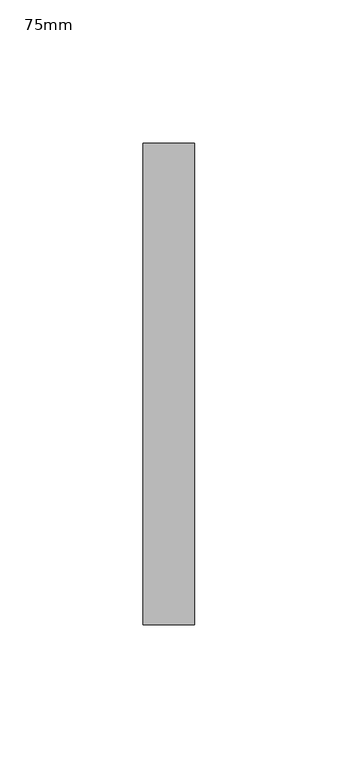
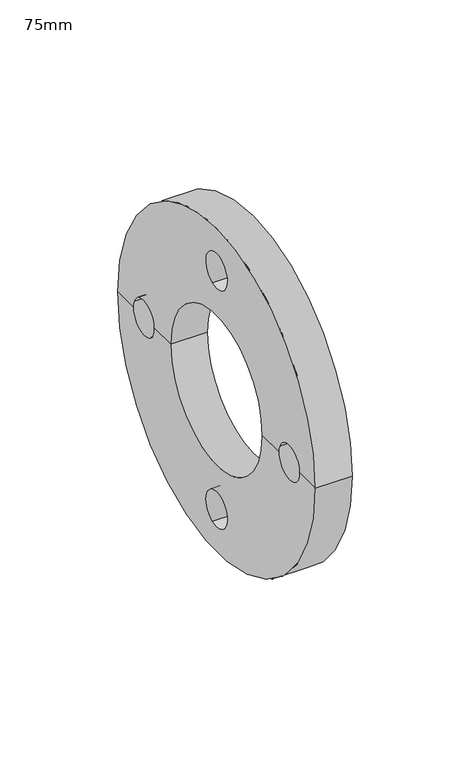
"""IFC4 building model written with IfcOpenShell, lengths in millimetres: pipe fitting geometry, Durapipe_PipeFitting_PVC_BackingFlange : 75mm."""

from ifc_helpers import new_model, si_unit, frame, origin, place, context, project, spatial, polyline, circle_curve, source, transform, mapped, element, save
from ifc_brep_helpers import plane_surface, cylinder_surface, revolved_surface, advanced_brep


def pipe_fitting_75mm_7d04418f(model_context):
    return source(origin(), model_context, "Body", "AdvancedBrep", [
        advanced_brep(
        [(-9.0, 84.0, 0.0), (9.0, 84.0, 0.0), (9.0, -84.0, 0.0), (-9.0, -84.0, 0.0), (-9.0, -70.7999665, 0.0), (-9.0, -70.1136322, -3.4701835), (-9.0, -52.800025, 0.0), (-9.0, -39.0, 0.0), (-9.0, 39.0, 0.0), (-9.0, 52.800025, 0.0), (-9.0, 53.4863593, -3.4242922), (-9.0, 70.7999665, 0.0), (-9.0, 3.4701835, -70.1136322), (-9.0, -3.4242922, -53.4863593), (-9.0, 70.1136322, 3.4701835), (-9.0, -53.4863593, 3.4242922), (-9.0, -3.4701835, 70.1136322), (-9.0, 3.4242922, 53.4863593), (9.0, 39.0, 0.0), (9.0, -39.0, 0.0), (9.0, -52.800025, 0.0), (9.0, -70.1136322, -3.4701835), (9.0, -70.7999665, 0.0), (9.0, 70.7999665, 0.0), (9.0, 53.4863593, -3.4242922), (9.0, 52.800025, 0.0), (9.0, -3.4242922, -53.4863593), (9.0, 3.4701835, -70.1136322), (9.0, 70.1136322, 3.4701835), (9.0, -53.4863593, 3.4242922), (9.0, 3.4242922, 53.4863593), (9.0, -3.4701835, 70.1136322)],
        [
            (0, 1),
            (1, 2, circle_curve(frame((9.0, 0.0, 0.0), z_axis=(-1.0, 0.0, 0.0), x_axis=(0.0, 1.0, 0.0)), 84.0)),
            (2, 3),
            (3, 0, circle_curve(frame((-9.0, 0.0, 0.0), z_axis=(1.0, 0.0, 0.0), x_axis=(0.0, 1.0, 0.0)), 84.0)),
            (0, 3, circle_curve(frame((-9.0, 0.0, 0.0), z_axis=(1.0, 0.0, 0.0), x_axis=(0.0, 1.0, 0.0)), 84.0)),
            (2, 1, circle_curve(frame((9.0, 0.0, 0.0), z_axis=(-1.0, 0.0, 0.0), x_axis=(0.0, 1.0, 0.0)), 84.0)),
            (3, 4),
            (4, 5, circle_curve(frame((-9.0, -61.7999957, -0.0229457), z_axis=(1.0, 0.0, 0.0), x_axis=(0.0, -0.9237373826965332, -0.38302643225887)), 9.0)),
            (5, 6, circle_curve(frame((-9.0, -61.7999957, -0.0229457), z_axis=(1.0, 0.0, 0.0), x_axis=(0.0, -0.9237373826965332, -0.38302643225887)), 9.0)),
            (6, 7),
            (7, 8, circle_curve(frame((-9.0, 0.0, 0.0), z_axis=(1.0, 0.0, 0.0), x_axis=(0.0, 1.0, 0.0)), 39.0)),
            (8, 9),
            (9, 10, circle_curve(frame((-9.0, 61.7999957, 0.0229457), z_axis=(1.0, 0.0, 0.0), x_axis=(0.0, 0.92373738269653, 0.3830264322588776)), 9.0)),
            (10, 11, circle_curve(frame((-9.0, 61.7999957, 0.0229457), z_axis=(1.0, 0.0, 0.0), x_axis=(0.0, 0.92373738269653, 0.3830264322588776)), 9.0)),
            (11, 0),
            (12, 13, circle_curve(frame((-9.0, 0.0229457, -61.7999957), z_axis=(1.0, 0.0, 0.0), x_axis=(0.0, 0.3830264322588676, -0.9237373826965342)), 9.0)),
            (13, 12, circle_curve(frame((-9.0, 0.0229457, -61.7999957), z_axis=(1.0, 0.0, 0.0), x_axis=(0.0, 0.3830264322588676, -0.9237373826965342)), 9.0)),
            (11, 14, circle_curve(frame((-9.0, 61.7999957, 0.0229457), z_axis=(1.0, 0.0, 0.0), x_axis=(0.0, 0.92373738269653, 0.3830264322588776)), 9.0)),
            (14, 9, circle_curve(frame((-9.0, 61.7999957, 0.0229457), z_axis=(1.0, 0.0, 0.0), x_axis=(0.0, 0.92373738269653, 0.3830264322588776)), 9.0)),
            (8, 7, circle_curve(frame((-9.0, 0.0, 0.0), z_axis=(1.0, 0.0, 0.0), x_axis=(0.0, 1.0, 0.0)), 39.0)),
            (6, 15, circle_curve(frame((-9.0, -61.7999957, -0.0229457), z_axis=(1.0, 0.0, 0.0), x_axis=(0.0, -0.9237373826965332, -0.38302643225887)), 9.0)),
            (15, 4, circle_curve(frame((-9.0, -61.7999957, -0.0229457), z_axis=(1.0, 0.0, 0.0), x_axis=(0.0, -0.9237373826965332, -0.38302643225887)), 9.0)),
            (16, 17, circle_curve(frame((-9.0, -0.0229457, 61.7999957), z_axis=(1.0, 0.0, 0.0), x_axis=(0.0, -0.3830264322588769, 0.9237373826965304)), 9.0)),
            (17, 16, circle_curve(frame((-9.0, -0.0229457, 61.7999957), z_axis=(1.0, 0.0, 0.0), x_axis=(0.0, -0.3830264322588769, 0.9237373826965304)), 9.0)),
            (18, 8),
            (7, 19),
            (19, 18, circle_curve(frame((9.0, 0.0, 0.0), z_axis=(1.0, 0.0, 0.0), x_axis=(0.0, 1.0, 0.0)), 39.0)),
            (18, 19, circle_curve(frame((9.0, 0.0, 0.0), z_axis=(1.0, 0.0, 0.0), x_axis=(0.0, 1.0, 0.0)), 39.0)),
            (19, 20),
            (20, 21, circle_curve(frame((9.0, -61.7999957, -0.0229457), z_axis=(-1.0, 0.0, 0.0), x_axis=(0.0, -0.9237373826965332, -0.38302643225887)), 9.0)),
            (21, 22, circle_curve(frame((9.0, -61.7999957, -0.0229457), z_axis=(-1.0, 0.0, 0.0), x_axis=(0.0, -0.9237373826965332, -0.38302643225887)), 9.0)),
            (22, 2),
            (1, 23),
            (23, 24, circle_curve(frame((9.0, 61.7999957, 0.0229457), z_axis=(-1.0, 0.0, 0.0), x_axis=(0.0, 0.92373738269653, 0.3830264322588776)), 9.0)),
            (24, 25, circle_curve(frame((9.0, 61.7999957, 0.0229457), z_axis=(-1.0, 0.0, 0.0), x_axis=(0.0, 0.92373738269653, 0.3830264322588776)), 9.0)),
            (25, 18),
            (26, 27, circle_curve(frame((9.0, 0.0229457, -61.7999957), z_axis=(-1.0, 0.0, 0.0), x_axis=(0.0, 0.3830264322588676, -0.9237373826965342)), 9.0)),
            (27, 26, circle_curve(frame((9.0, 0.0229457, -61.7999957), z_axis=(-1.0, 0.0, 0.0), x_axis=(0.0, 0.3830264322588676, -0.9237373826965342)), 9.0)),
            (25, 28, circle_curve(frame((9.0, 61.7999957, 0.0229457), z_axis=(-1.0, 0.0, 0.0), x_axis=(0.0, 0.92373738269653, 0.3830264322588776)), 9.0)),
            (28, 23, circle_curve(frame((9.0, 61.7999957, 0.0229457), z_axis=(-1.0, 0.0, 0.0), x_axis=(0.0, 0.92373738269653, 0.3830264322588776)), 9.0)),
            (22, 29, circle_curve(frame((9.0, -61.7999957, -0.0229457), z_axis=(-1.0, 0.0, 0.0), x_axis=(0.0, -0.9237373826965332, -0.38302643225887)), 9.0)),
            (29, 20, circle_curve(frame((9.0, -61.7999957, -0.0229457), z_axis=(-1.0, 0.0, 0.0), x_axis=(0.0, -0.9237373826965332, -0.38302643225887)), 9.0)),
            (30, 31, circle_curve(frame((9.0, -0.0229457, 61.7999957), z_axis=(-1.0, 0.0, 0.0), x_axis=(0.0, -0.3830264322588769, 0.9237373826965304)), 9.0)),
            (31, 30, circle_curve(frame((9.0, -0.0229457, 61.7999957), z_axis=(-1.0, 0.0, 0.0), x_axis=(0.0, -0.3830264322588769, 0.9237373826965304)), 9.0)),
            (26, 13),
            (12, 27),
            (24, 10),
            (14, 28),
            (30, 17),
            (16, 31),
            (29, 15),
            (5, 21),
        ],
        [
            cylinder_surface(frame((-27.7738734, 0.0, 0.0), z_axis=(-1.0, 0.0, 0.0), x_axis=(0.0, 1.0, 0.0)), 84.0),
            plane_surface(frame((-9.0, 0.0, 0.0), z_axis=(-1.0, 0.0, 0.0), x_axis=(0.0, 1.0, 0.0))),
            revolved_surface(polyline([(-9.0, 39.0, 0.0), (9.0, 39.0, 0.0)]), (-27.7738734, 0.0, 0.0), (-1.0, 0.0, 0.0)),
            plane_surface(frame((9.0, 0.0, 0.0), z_axis=(1.0, 0.0, 0.0), x_axis=(0.0, 1.0, 0.0))),
            revolved_surface(polyline([(-9.000000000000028, 3.4701835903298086, -70.1136321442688), (8.999999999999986, 3.4701835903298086, -70.1136321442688)]), (41.0, 0.0229457, -61.7999957), (-1.0000000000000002, 0.0, 0.0)),
            revolved_surface(polyline([(-9.0, 70.11363214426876, 3.4701835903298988), (9.0, 70.11363214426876, 3.4701835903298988)]), (41.0, 61.7999957, 0.0229457), (-1.0, 0.0, 0.0)),
            revolved_surface(polyline([(-9.000000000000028, -3.470183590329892, 70.11363214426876), (8.999999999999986, -3.470183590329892, 70.11363214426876)]), (41.0, -0.0229457, 61.7999957), (-1.0000000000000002, 0.0, 0.0)),
            revolved_surface(polyline([(-9.0, -70.11363214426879, -3.4701835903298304), (9.0, -70.11363214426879, -3.4701835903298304)]), (41.0, -61.7999957, -0.0229457), (-1.0, 0.0, 0.0)),
        ],
        [
            (0, [[1, 2, 3, 4]]),
            (0, [[-1, 5, -3, 6]]),
            (1, [[-4, 7, 8, 9, 10, 11, 12, 13, 14, 15], [16, 17]]),
            (1, [[-5, -15, 18, 19, -12, 20, -10, 21, 22, -7], [23, 24]]),
            (2, [[25, -11, 26, 27]]),
            (2, [[-25, 28, -26, -20]]),
            (3, [[-27, 29, 30, 31, 32, -2, 33, 34, 35, 36], [37, 38]]),
            (3, [[-28, -36, 39, 40, -33, -6, -32, 41, 42, -29], [43, 44]]),
            (4, [[45, -16, 46, -37]]),
            (4, [[-45, -38, -46, -17]]),
            (5, [[47, -13, -19, 48, -39, -35]]),
            (5, [[-47, -34, -40, -48, -18, -14]]),
            (6, [[49, -23, 50, -43]]),
            (6, [[-49, -44, -50, -24]]),
            (7, [[51, -21, -9, 52, -30, -42]]),
            (7, [[-51, -41, -31, -52, -8, -22]]),
        ],
    ),
    ])


if __name__ == "__main__":
    model = new_model("IFC4")
    model_context = context("Model", 3, world=origin())
    ifc_project = project(units=[si_unit("LENGTHUNIT", "METRE", prefix="MILLI")], contexts=[model_context])
    site = spatial("IfcSite", under=ifc_project)
    building = spatial("IfcBuilding", under=site)
    placement = place(None, origin())
    pipe_fitting_75mm_shape = pipe_fitting_75mm_7d04418f(model_context)
    element("IfcPipeFitting", 1, ObjectType="Durapipe_PipeFitting_PVC_BackingFlange : 75mm", at=placement, inside=building, context=model_context, shape_type="MappedRepresentation", body=[
        mapped(pipe_fitting_75mm_shape, transform((0.0, 0.0, 0.0), x_axis=(1.0, 0.0, 0.0), y_axis=(0.0, 1.0, 0.0), z_axis=(0.0, 0.0, 1.0))),
    ])
    save(model, "model.ifc")
